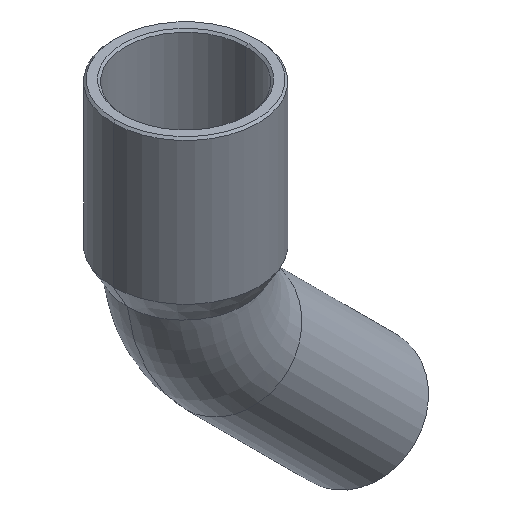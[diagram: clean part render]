
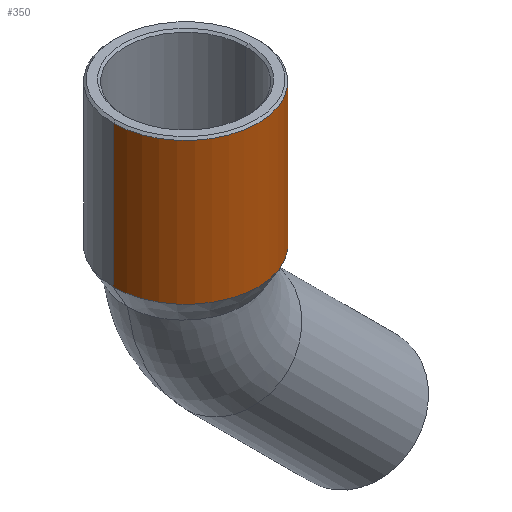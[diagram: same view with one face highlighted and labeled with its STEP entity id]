
A CAD part, isometric view. The second image highlights one B-rep face of the part: STEP entity #350.
In plain terms, the highlighted cylindrical face has radius 3.6 mm (diameter 7.2 mm), a partial arc.
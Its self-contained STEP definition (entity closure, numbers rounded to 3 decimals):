
#178=CARTESIAN_POINT('',(18.435,0.,-0.143));
#179=VERTEX_POINT('',#178);
#186=CARTESIAN_POINT('',(11.235,0.,-0.143));
#187=VERTEX_POINT('',#186);
#188=CARTESIAN_POINT('',(14.835,0.,-0.143));
#189=DIRECTION('',(0.0,0.0,-1.0));
#190=DIRECTION('',(-1.0,0.0,0.0));
#191=AXIS2_PLACEMENT_3D('',#188,#189,#190);
#192=CIRCLE('',#191,3.6);
#193=EDGE_CURVE('',#179,#187,#192,.T.);
#319=CARTESIAN_POINT('',(14.835,0.,0.018));
#320=DIRECTION('',(0.0,0.0,1.0));
#321=DIRECTION('',(-1.0,0.0,0.0));
#322=AXIS2_PLACEMENT_3D('',#319,#320,#321);
#323=CYLINDRICAL_SURFACE('',#322,3.6);
#324=CARTESIAN_POINT('',(11.235,0.,6.918));
#325=VERTEX_POINT('',#324);
#326=CARTESIAN_POINT('',(11.235,0.,-0.143));
#327=DIRECTION('',(0.0,0.0,1.0));
#328=VECTOR('',#327,7.061);
#329=LINE('',#326,#328);
#330=EDGE_CURVE('',#187,#325,#329,.T.);
#331=ORIENTED_EDGE('',*,*,#330,.F.);
#332=ORIENTED_EDGE('',*,*,#193,.F.);
#333=CARTESIAN_POINT('',(18.435,0.,6.918));
#334=VERTEX_POINT('',#333);
#335=CARTESIAN_POINT('',(18.435,0.,6.918));
#336=DIRECTION('',(0.0,0.0,-1.0));
#337=VECTOR('',#336,7.061);
#338=LINE('',#335,#337);
#339=EDGE_CURVE('',#334,#179,#338,.T.);
#340=ORIENTED_EDGE('',*,*,#339,.F.);
#341=CARTESIAN_POINT('',(14.835,0.,6.918));
#342=DIRECTION('',(0.0,0.0,1.0));
#343=DIRECTION('',(-1.0,0.0,0.0));
#344=AXIS2_PLACEMENT_3D('',#341,#342,#343);
#345=CIRCLE('',#344,3.6);
#346=EDGE_CURVE('',#325,#334,#345,.T.);
#347=ORIENTED_EDGE('',*,*,#346,.F.);
#348=EDGE_LOOP('',(#331,#332,#340,#347));
#349=FACE_OUTER_BOUND('',#348,.T.);
#350=ADVANCED_FACE('',(#349),#323,.T.);
